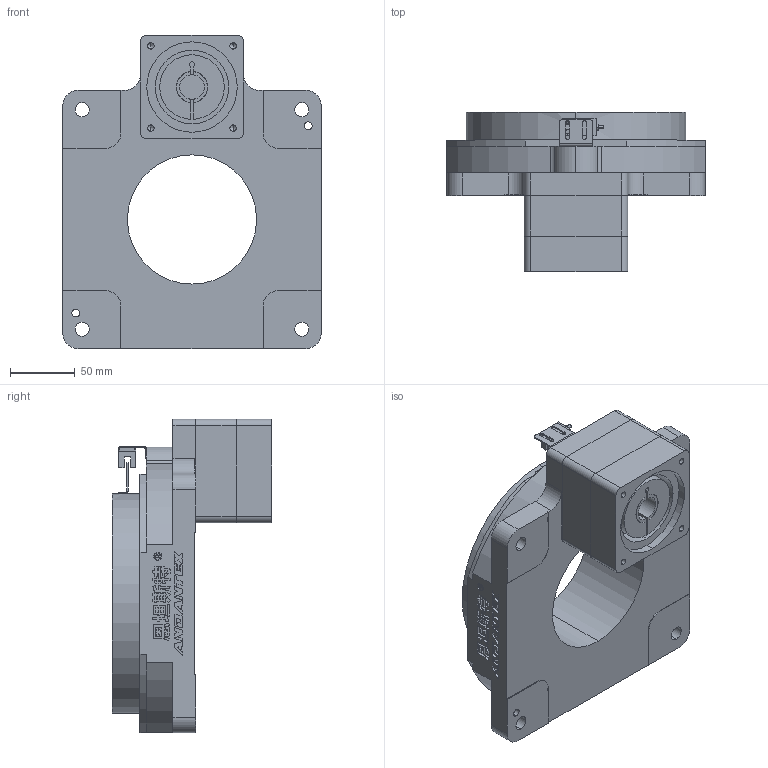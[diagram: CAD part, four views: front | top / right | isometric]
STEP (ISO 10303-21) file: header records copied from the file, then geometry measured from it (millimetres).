
FILE_DESCRIPTION(('Open CASCADE Model'),'2;1');
FILE_NAME('Open CASCADE Shape Model','2026-10-11T02:44:00',('Author'),( 'Open CASCADE'),'Open CASCADE STEP processor 7.8','Open CASCADE 7.8' ,'Unknown');
FILE_SCHEMA(('AUTOMOTIVE_DESIGN { 1 0 10303 214 1 1 1 1 }'));
Length unit declared in the file: millimetre
Products named in the file (3): NT200-10(配伺服750W 输入19-46.8 70-6 4-M6-90); NT200-10(配伺服750W 输入19-46.8 70-6 4-M6-90)-01; NT200-10(配伺服750W 输入19-46.8 70-6 4-M6-90)-02
Assembly tree (2 placements, depth 2):
  NT200-10(配伺服750W 输入19-46.8 70-6 4-M6-90)
    NT200-10(配伺服750W 输入19-46.8 70-6 4-M6-90)-01
    NT200-10(配伺服750W 输入19-46.8 70-6 4-M6-90)-02
Bounding box: 200 x 123.5 x 242.5 mm (x, y, z)
Volume: 1928617.9 mm3; surface area: 203014.1 mm2
Topology: 6 solids, 6 shells, 945 faces, 2631 edges, 1720 vertices
Faces by surface type: plane 747, cylinder 158, cone 40
Entity records: 63630 total; most frequent: CARTESIAN_POINT 13663, DIRECTION 8591, LINE 5951, VECTOR 5951, ORIENTED_EDGE 5182, PCURVE 5182, DEFINITIONAL_REPRESENTATION 5182, EDGE_CURVE 2591
